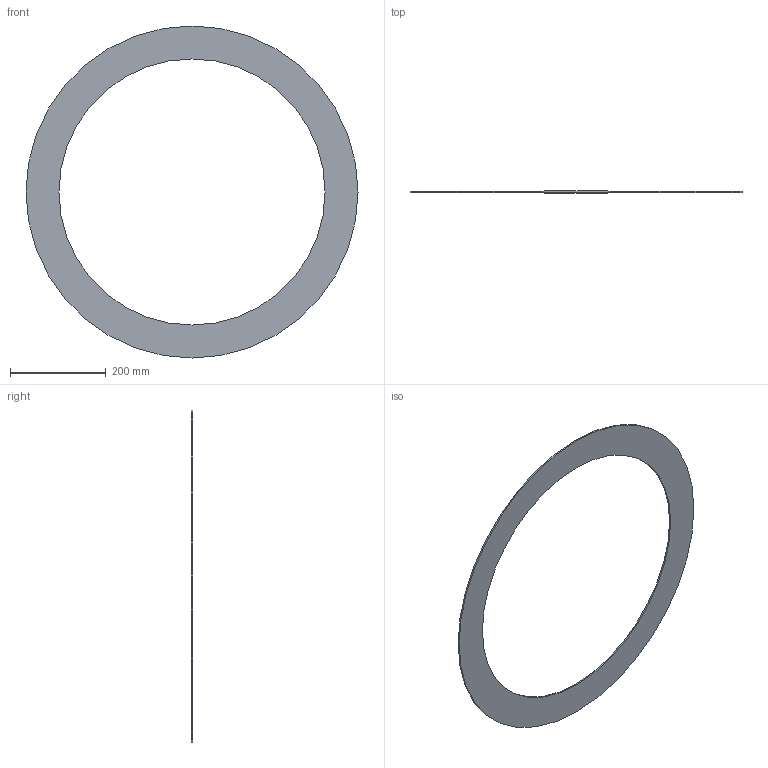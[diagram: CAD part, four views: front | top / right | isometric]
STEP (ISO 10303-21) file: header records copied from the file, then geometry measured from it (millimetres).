
FILE_DESCRIPTION(/* description */ ('Unknown'),/* implementation_level */ '2;1');
FILE_NAME(/* name */ 'GUA.630B',/* time_stamp */ '2021-04-01T14:29:14+02:00',/* author */ ('Unknown'),/* organization */ ('Unknown'),/* preprocessor_version */ 'ST-DEVELOPER v16.7',/* originating_system */ 'Solid Edge',/* authorisation */ 'Unknown');
FILE_SCHEMA (('AUTOMOTIVE_DESIGN {1 0 10303 214 3 1 1}'));
Length unit declared in the file: millimetre
Products named in the file (1): GUA.630B
Bounding box: 695 x 3 x 695 mm (x, y, z)
Volume: 407093.9 mm3; surface area: 283195.7 mm2
Topology: 1 solids, 1 shells, 4 faces, 6 edges, 4 vertices
Faces by surface type: cylinder 2, plane 2
Full cylindrical faces by diameter (mm): 557 x1, 695 x1
Entity records: 118 total; most frequent: DIRECTION 18, CARTESIAN_POINT 13, AXIS2_PLACEMENT_3D 9, ORIENTED_EDGE 8, EDGE_LOOP 8, FACE_BOUND 8, EDGE_CURVE 4, VERTEX_POINT 4
